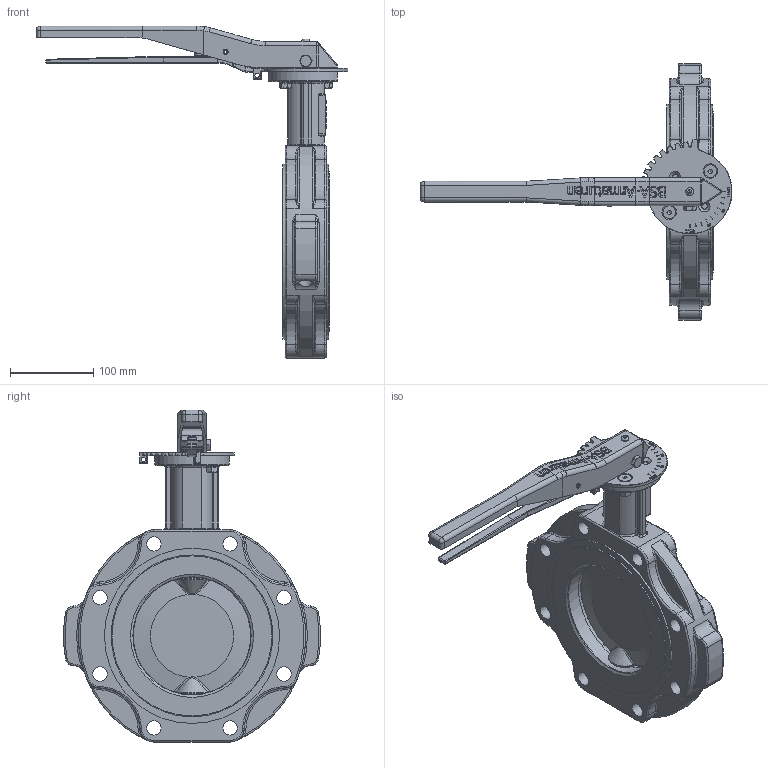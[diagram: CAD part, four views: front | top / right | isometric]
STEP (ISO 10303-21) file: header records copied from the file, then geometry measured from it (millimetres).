
FILE_DESCRIPTION((''),'2;1');
FILE_NAME('K:\Inventor\1 Artikel\10) Absperrklappen\10a) manuell\Chemvalve\844-GGG, CST-L\844-GGG, DN150\844-GGG, DN150, 3D\844-GGG, DN150, PN10-16, HH, 3D.stp','2019-08-13T13:12:26',('claudia'),(''),'Autodesk Inventor 2013','Autodesk Inventor 2013','');
FILE_SCHEMA(('AUTOMOTIVE_DESIGN { 1 0 10303 214 1 1 1 1 }'));
Length unit declared in the file: millimetre
Products named in the file (1): Bauteil33
Bounding box: 375.82 x 309.44 x 399.97 mm (x, y, z)
Volume: 2568436.6 mm3; surface area: 385587.8 mm2
Topology: 1 solids, 3 shells, 2030 faces, 5272 edges, 3310 vertices
Faces by surface type: plane 807, bspline 599, cylinder 335, torus 188, cone 65, sphere 36
Full cylindrical faces by diameter (mm): 2.65 x4, 4.134 x1, 5 x1, 5.5 x2, 5.8 x1, 6 x2, 6.4 x1, 7 x4, 8 x2, 9 x4, 9.5 x1, 10 x1, 11.63 x1, 15.24 x2, 16 x2, 17.294 x8, 18 x2, 23 x1, 32 x1, 38 x1, 56 x1, 166 x2, 192.8 x2, 195 x2, 211 x2
Entity records: 72333 total; most frequent: CARTESIAN_POINT 25216, ORIENTED_EDGE 10138, DIRECTION 7933, EDGE_CURVE 5069, VERTEX_POINT 3260, AXIS2_PLACEMENT_3D 2702, VECTOR 2529, LINE 2529
